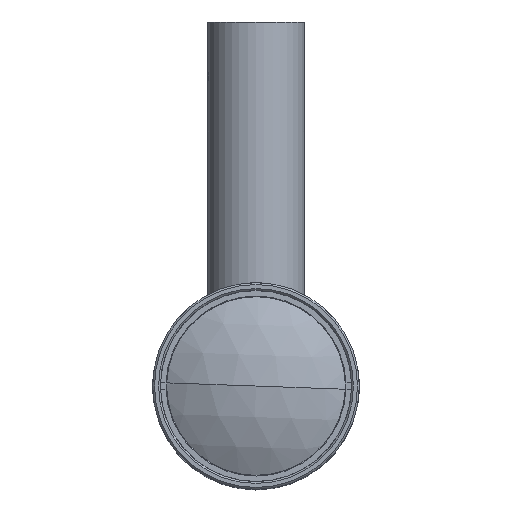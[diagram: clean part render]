
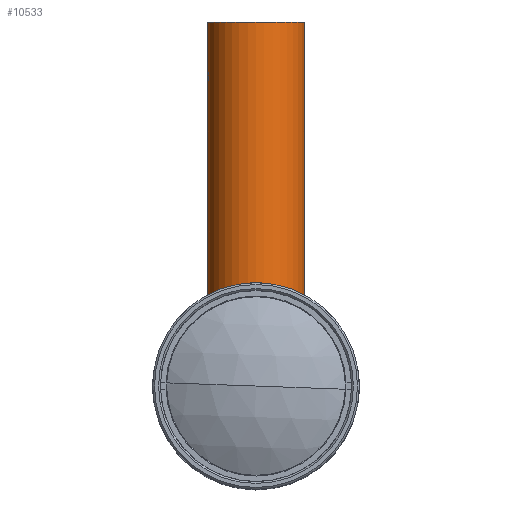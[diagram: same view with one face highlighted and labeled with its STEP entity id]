
A CAD part, top view. The second image highlights one B-rep face of the part: STEP entity #10533.
In plain terms, the highlighted cylindrical face has radius 8 mm (diameter 16 mm), a partial arc.
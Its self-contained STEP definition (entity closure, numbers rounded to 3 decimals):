
#176 = CARTESIAN_POINT ( 'NONE',  ( -7.964, 52., -23.858 ) ) ;
#206 = ORIENTED_EDGE ( 'NONE', *, *, #16143, .T. ) ;
#335 = EDGE_CURVE ( 'NONE', #6121, #14758, #8169, .T. ) ;
#339 = CARTESIAN_POINT ( 'NONE',  ( -8., 52.25, -24.626 ) ) ;
#640 = CARTESIAN_POINT ( 'NONE',  ( 7.964, 50., -23.858 ) ) ;
#722 = CARTESIAN_POINT ( 'NONE',  ( 7.977, 52.092, -23.996 ) ) ;
#1209 = CYLINDRICAL_SURFACE ( 'NONE', #10900, 8. ) ;
#1337 = EDGE_CURVE ( 'NONE', #13873, #7085, #15042, .T. ) ;
#1338 = ORIENTED_EDGE ( 'NONE', *, *, #13090, .F. ) ;
#1433 = CARTESIAN_POINT ( 'NONE',  ( -7.938, 51.763, -23.632 ) ) ;
#1603 = CARTESIAN_POINT ( 'NONE',  ( -7.977, 52.093, -23.997 ) ) ;
#1686 = CARTESIAN_POINT ( 'NONE',  ( -7.902, 50.836, -23.376 ) ) ;
#1829 = CARTESIAN_POINT ( 'NONE',  ( 7.995, 49.783, -24.298 ) ) ;
#1834 = CARTESIAN_POINT ( 'NONE',  ( -8., 10., -24.626 ) ) ;
#1909 = CARTESIAN_POINT ( 'NONE',  ( 7.938, 50.237, -23.632 ) ) ;
#2002 = CARTESIAN_POINT ( 'NONE',  ( 7.907, 51.327, -23.409 ) ) ;
#2277 = VECTOR ( 'NONE', #13126, 1000. ) ;
#2728 = CARTESIAN_POINT ( 'NONE',  ( 8., 49.75, -24.626 ) ) ;
#2748 = ORIENTED_EDGE ( 'NONE', *, *, #1337, .T. ) ;
#2761 = AXIS2_PLACEMENT_3D ( 'NONE', #3941, #16473, #7727 ) ;
#2764 = CARTESIAN_POINT ( 'NONE',  ( 8., 52.25, -24.626 ) ) ;
#2951 = CARTESIAN_POINT ( 'NONE',  ( -8., 52.25, -24.463 ) ) ;
#2968 = VERTEX_POINT ( 'NONE', #6563 ) ;
#3013 = CARTESIAN_POINT ( 'NONE',  ( 7.925, 51.629, -23.534 ) ) ;
#3077 = VECTOR ( 'NONE', #15725, 1000. ) ;
#3347 = CARTESIAN_POINT ( 'NONE',  ( 7.921, 50.445, -23.503 ) ) ;
#3941 = CARTESIAN_POINT ( 'NONE',  ( 0., 60., -24.626 ) ) ;
#4366 = CARTESIAN_POINT ( 'NONE',  ( 7.902, 51.164, -23.376 ) ) ;
#4461 = EDGE_CURVE ( 'NONE', #6121, #7539, #9682, .T. ) ;
#4480 = CARTESIAN_POINT ( 'NONE',  ( 8., 12.5, -24.626 ) ) ;
#4610 = CARTESIAN_POINT ( 'NONE',  ( 7.977, 49.907, -23.997 ) ) ;
#5787 = CARTESIAN_POINT ( 'NONE',  ( 8., 49.75, -24.463 ) ) ;
#5980 = CARTESIAN_POINT ( 'NONE',  ( -8., 10., -24.626 ) ) ;
#6056 = CARTESIAN_POINT ( 'NONE',  ( -8., 52.25, -24.626 ) ) ;
#6121 = VERTEX_POINT ( 'NONE', #2728 ) ;
#6159 = VECTOR ( 'NONE', #13545, 1000. ) ;
#6492 = CARTESIAN_POINT ( 'NONE',  ( -7.964, 50.002, -23.857 ) ) ;
#6563 = CARTESIAN_POINT ( 'NONE',  ( -8., 12.5, -24.626 ) ) ;
#6727 = LINE ( 'NONE', #1834, #3077 ) ;
#6887 = CARTESIAN_POINT ( 'NONE',  ( 8., 49.75, -24.626 ) ) ;
#7085 = VERTEX_POINT ( 'NONE', #12168 ) ;
#7137 = CARTESIAN_POINT ( 'NONE',  ( 7.902, 50.834, -23.376 ) ) ;
#7539 = VERTEX_POINT ( 'NONE', #2764 ) ;
#7727 = DIRECTION ( 'NONE',  ( 1., 0., 0. ) ) ;
#7862 = CIRCLE ( 'NONE', #2761, 8. ) ;
#8006 = CARTESIAN_POINT ( 'NONE',  ( -7.945, 51.827, -23.685 ) ) ;
#8081 = CARTESIAN_POINT ( 'NONE',  ( -8., 49.75, -24.626 ) ) ;
#8169 = LINE ( 'NONE', #9679, #6159 ) ;
#8398 = CARTESIAN_POINT ( 'NONE',  ( 0., 10., -24.626 ) ) ;
#8484 = CARTESIAN_POINT ( 'NONE',  ( 8., 52.25, -24.626 ) ) ;
#9157 = ORIENTED_EDGE ( 'NONE', *, *, #15213, .T. ) ;
#9679 = CARTESIAN_POINT ( 'NONE',  ( 8., 10., -24.626 ) ) ;
#9682 = B_SPLINE_CURVE_WITH_KNOTS ( 'NONE', 3,
 ( #6887, #5787, #1829, #4610, #640, #13437, #1909, #10922, #3347, #13526, #7137, #4366, #2002, #3013, #15959, #16041, #722, #9739, #16206, #8484 ),
 .UNSPECIFIED., .F., .F.,
 ( 4, 2, 2, 2, 2, 2, 2, 2, 2, 4 ),
 ( 0.004, 0.004, 0.005, 0.005, 0.005, 0.006, 0.006, 0.007, 0.007, 0.008 ),
 .UNSPECIFIED. ) ;
#9708 = ORIENTED_EDGE ( 'NONE', *, *, #335, .F. ) ;
#9739 = CARTESIAN_POINT ( 'NONE',  ( 7.995, 52.217, -24.296 ) ) ;
#9802 = CARTESIAN_POINT ( 'NONE',  ( 8., 60., -24.626 ) ) ;
#9970 = FACE_OUTER_BOUND ( 'NONE', #15582, .T. ) ;
#10025 = LINE ( 'NONE', #5980, #15991 ) ;
#10388 = DIRECTION ( 'NONE',  ( 1., 0., 0. ) ) ;
#10459 = CARTESIAN_POINT ( 'NONE',  ( -7.938, 50.232, -23.627 ) ) ;
#10533 = ADVANCED_FACE ( 'NONE', ( #9970 ), #1209, .T. ) ;
#10900 = AXIS2_PLACEMENT_3D ( 'NONE', #8398, #10926, #16439 ) ;
#10922 = CARTESIAN_POINT ( 'NONE',  ( 7.926, 50.373, -23.542 ) ) ;
#10926 = DIRECTION ( 'NONE',  ( 0., -1., 0. ) ) ;
#11031 = ORIENTED_EDGE ( 'NONE', *, *, #4461, .T. ) ;
#11257 = EDGE_CURVE ( 'NONE', #12955, #16237, #7862, .T. ) ;
#11291 = DIRECTION ( 'NONE',  ( 0., -1., 0. ) ) ;
#11492 = CARTESIAN_POINT ( 'NONE',  ( 0., 12.5, -24.626 ) ) ;
#11631 = CARTESIAN_POINT ( 'NONE',  ( -7.977, 49.908, -23.996 ) ) ;
#11879 = CARTESIAN_POINT ( 'NONE',  ( -7.995, 49.783, -24.296 ) ) ;
#12168 = CARTESIAN_POINT ( 'NONE',  ( -8., 49.75, -24.626 ) ) ;
#12583 = DIRECTION ( 'NONE',  ( 0., -1., 0. ) ) ;
#12955 = VERTEX_POINT ( 'NONE', #9802 ) ;
#13090 = EDGE_CURVE ( 'NONE', #14758, #2968, #15631, .T. ) ;
#13126 = DIRECTION ( 'NONE',  ( 0., -1., 0. ) ) ;
#13137 = CARTESIAN_POINT ( 'NONE',  ( -7.907, 50.673, -23.409 ) ) ;
#13215 = CARTESIAN_POINT ( 'NONE',  ( -7.995, 52.217, -24.298 ) ) ;
#13437 = CARTESIAN_POINT ( 'NONE',  ( 7.945, 50.173, -23.685 ) ) ;
#13526 = CARTESIAN_POINT ( 'NONE',  ( 7.907, 50.672, -23.409 ) ) ;
#13545 = DIRECTION ( 'NONE',  ( 0., -1., 0. ) ) ;
#13873 = VERTEX_POINT ( 'NONE', #6056 ) ;
#14302 = CARTESIAN_POINT ( 'NONE',  ( -7.902, 51.166, -23.376 ) ) ;
#14387 = CARTESIAN_POINT ( 'NONE',  ( -7.926, 51.627, -23.542 ) ) ;
#14467 = CARTESIAN_POINT ( 'NONE',  ( -7.907, 51.328, -23.409 ) ) ;
#14518 = ORIENTED_EDGE ( 'NONE', *, *, #11257, .T. ) ;
#14532 = CARTESIAN_POINT ( 'NONE',  ( 8., 10., -24.626 ) ) ;
#14640 = ORIENTED_EDGE ( 'NONE', *, *, #15118, .F. ) ;
#14758 = VERTEX_POINT ( 'NONE', #4480 ) ;
#14777 = LINE ( 'NONE', #14532, #2277 ) ;
#15042 = B_SPLINE_CURVE_WITH_KNOTS ( 'NONE', 3,
 ( #339, #2951, #13215, #1603, #176, #8006, #1433, #14387, #15573, #14467, #14302, #1686, #13137, #15409, #10459, #6492, #11631, #11879, #15739, #8081 ),
 .UNSPECIFIED., .F., .F.,
 ( 4, 2, 2, 2, 2, 2, 2, 2, 2, 4 ),
 ( 0.004, 0.004, 0.005, 0.005, 0.005, 0.006, 0.006, 0.007, 0.007, 0.008 ),
 .UNSPECIFIED. ) ;
#15118 = EDGE_CURVE ( 'NONE', #12955, #7539, #14777, .T. ) ;
#15213 = EDGE_CURVE ( 'NONE', #16237, #13873, #6727, .T. ) ;
#15309 = CARTESIAN_POINT ( 'NONE',  ( -8., 60., -24.626 ) ) ;
#15365 = AXIS2_PLACEMENT_3D ( 'NONE', #11492, #12583, #10388 ) ;
#15409 = CARTESIAN_POINT ( 'NONE',  ( -7.925, 50.371, -23.534 ) ) ;
#15573 = CARTESIAN_POINT ( 'NONE',  ( -7.921, 51.555, -23.503 ) ) ;
#15582 = EDGE_LOOP ( 'NONE', ( #14518, #9157, #2748, #206, #1338, #9708, #11031, #14640 ) ) ;
#15631 = CIRCLE ( 'NONE', #15365, 8. ) ;
#15725 = DIRECTION ( 'NONE',  ( 0., -1., 0. ) ) ;
#15739 = CARTESIAN_POINT ( 'NONE',  ( -8., 49.75, -24.461 ) ) ;
#15959 = CARTESIAN_POINT ( 'NONE',  ( 7.938, 51.768, -23.627 ) ) ;
#15991 = VECTOR ( 'NONE', #11291, 1000. ) ;
#16041 = CARTESIAN_POINT ( 'NONE',  ( 7.964, 51.998, -23.857 ) ) ;
#16143 = EDGE_CURVE ( 'NONE', #7085, #2968, #10025, .T. ) ;
#16206 = CARTESIAN_POINT ( 'NONE',  ( 8., 52.25, -24.461 ) ) ;
#16237 = VERTEX_POINT ( 'NONE', #15309 ) ;
#16439 = DIRECTION ( 'NONE',  ( 1., 0., 0. ) ) ;
#16473 = DIRECTION ( 'NONE',  ( 0., -1., 0. ) ) ;
